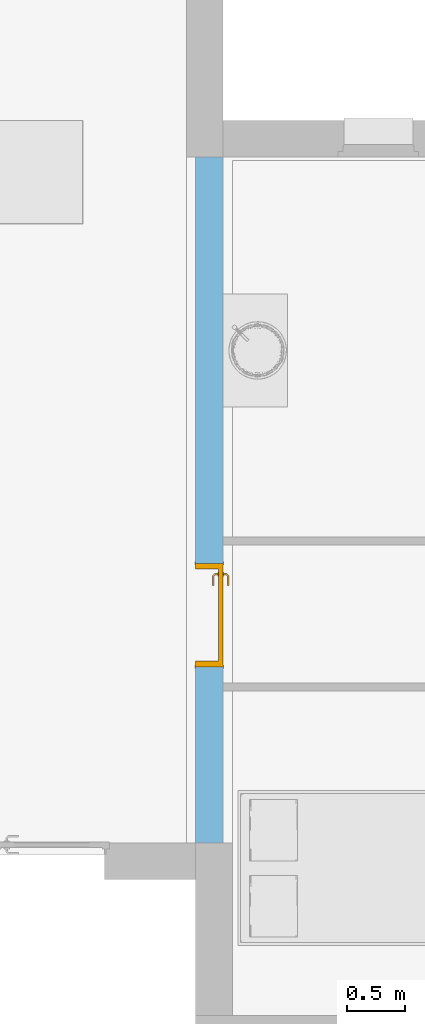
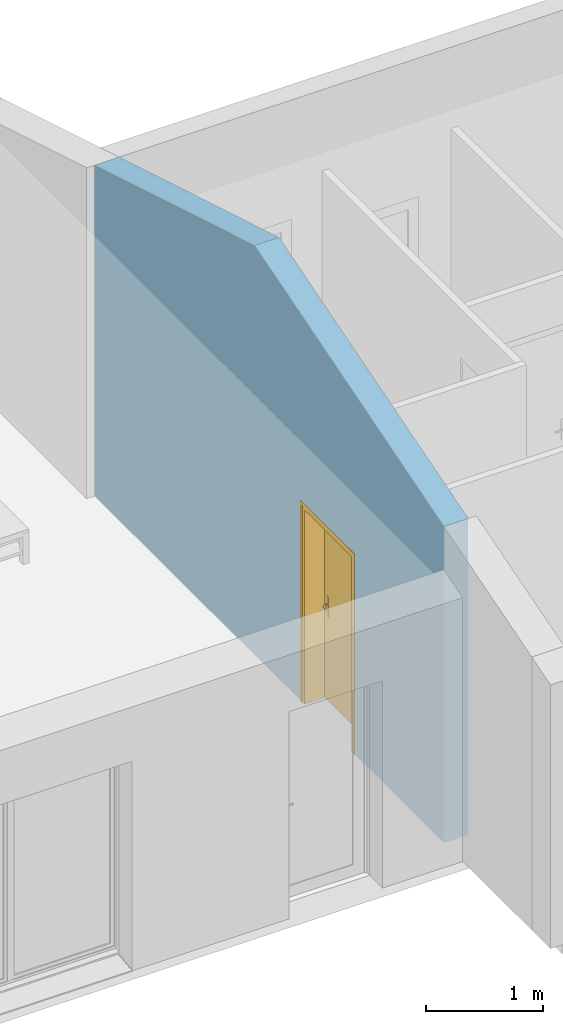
# One storey, part 9 of 18: 1 door, 1 opening, plus 1 element that does not belong to this part.
"""IFC2X3 building model written with IfcOpenShell, lengths in metres."""

from ifc_helpers import new_model, entity, si_unit, converted_unit, derived_unit, direction, frame, frame_2d, origin, place, context, subcontext, project, spatial, polyline, rectangle, extrude, clip, bounded_halfspace, faceted_brep, source, transform, mapped, material, material_list, layer, layer_set, layer_usage, type_object, type_shapes, element, fill, save


model = new_model("IFC2X3")

# Units and contexts
model_context = context("Model", 3, precision=1e-05, world=origin(), true_north=direction((6.12303176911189e-17, 1.0)))
body_context = subcontext(model_context, "Body", "Model", "MODEL_VIEW")
ifc_project = project(units=[si_unit("LENGTHUNIT", "METRE"), si_unit("AREAUNIT", "SQUARE_METRE"), si_unit("VOLUMEUNIT", "CUBIC_METRE"), converted_unit("PLANEANGLEUNIT", "DEGREE", entity("IfcRatioMeasure", 0.0174532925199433), si_unit("PLANEANGLEUNIT", "RADIAN"), dimensions=[0, 0, 0, 0, 0, 0, 0]), si_unit("MASSUNIT", "GRAM", prefix="KILO"), derived_unit("MASSDENSITYUNIT", [(si_unit("MASSUNIT", "GRAM", prefix="KILO"), 1), (si_unit("LENGTHUNIT", "METRE"), -3)]), derived_unit("MOMENTOFINERTIAUNIT", [(si_unit("LENGTHUNIT", "METRE"), 4)]), si_unit("TIMEUNIT", "SECOND"), si_unit("FREQUENCYUNIT", "HERTZ"), si_unit("THERMODYNAMICTEMPERATUREUNIT", "DEGREE_CELSIUS"), derived_unit("THERMALTRANSMITTANCEUNIT", [(si_unit("MASSUNIT", "GRAM", prefix="KILO"), 1), (si_unit("THERMODYNAMICTEMPERATUREUNIT", "KELVIN"), -1), (si_unit("TIMEUNIT", "SECOND"), -3)]), derived_unit("VOLUMETRICFLOWRATEUNIT", [(si_unit("LENGTHUNIT", "METRE"), 3), (si_unit("TIMEUNIT", "SECOND"), -1)]), si_unit("ELECTRICCURRENTUNIT", "AMPERE"), si_unit("ELECTRICVOLTAGEUNIT", "VOLT"), si_unit("POWERUNIT", "WATT"), si_unit("FORCEUNIT", "NEWTON", prefix="KILO"), si_unit("ILLUMINANCEUNIT", "LUX"), si_unit("LUMINOUSFLUXUNIT", "LUMEN"), si_unit("LUMINOUSINTENSITYUNIT", "CANDELA"), derived_unit("USERDEFINED", [(si_unit("MASSUNIT", "GRAM", prefix="KILO"), -1), (si_unit("LENGTHUNIT", "METRE"), -2), (si_unit("TIMEUNIT", "SECOND"), 3), (si_unit("LUMINOUSFLUXUNIT", "LUMEN"), 1)]), derived_unit("LINEARVELOCITYUNIT", [(si_unit("LENGTHUNIT", "METRE"), 1), (si_unit("TIMEUNIT", "SECOND"), -1)]), si_unit("PRESSUREUNIT", "PASCAL"), derived_unit("USERDEFINED", [(si_unit("LENGTHUNIT", "METRE"), -2), (si_unit("MASSUNIT", "GRAM", prefix="KILO"), 1), (si_unit("TIMEUNIT", "SECOND"), -2)]), derived_unit("LINEARFORCEUNIT", [(si_unit("MASSUNIT", "GRAM", prefix="KILO"), 1), (si_unit("LENGTHUNIT", "METRE"), 1), (si_unit("TIMEUNIT", "SECOND"), -2), (si_unit("LENGTHUNIT", "METRE"), -1)]), derived_unit("PLANARFORCEUNIT", [(si_unit("MASSUNIT", "GRAM", prefix="KILO"), 1), (si_unit("LENGTHUNIT", "METRE"), 1), (si_unit("TIMEUNIT", "SECOND"), -2), (si_unit("LENGTHUNIT", "METRE"), -2)])], contexts=[model_context])

# Site, building, storey
site_placement = place(None, origin())
site = spatial("IfcSite", under=ifc_project, at=site_placement, Name="Surface", CompositionType="ELEMENT")
building_placement = place(site_placement, origin())
building = spatial("IfcBuilding", under=site, at=building_placement, CompositionType="ELEMENT")
storey_placement = place(building_placement, origin())
storey = spatial("IfcBuildingStorey", under=building, at=storey_placement, Name="RDC", CompositionType="ELEMENT", Elevation=-1.94916083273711e-14)

# Wall, opening, door
ifc_material_1 = material(Name="Maçonnerie - Enduit")
ifc_layer_1 = layer(ifc_material_1, 0.02)
ifc_material_2 = material(Name="Blocs béton manufacturés")
ifc_layer_2 = layer(ifc_material_2, 0.2)
ifc_layer_3 = layer(ifc_material_1, 0.02)
ifc_layer_set = layer_set([ifc_layer_1, ifc_layer_2, ifc_layer_3], Name="Mur de base:parpaing 20 + enduit 2 faces 2 cm")
ifc_layer_usage = layer_usage(ifc_layer_set, "AXIS2", "NEGATIVE", 0.12)
wall_type = type_object("IfcWallType", Name="Mur de base:parpaing 20 + enduit 2 faces 2 cm", PredefinedType="STANDARD", material=ifc_layer_set)
wall_placement = place(storey_placement, frame((-11.2282926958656, 6.66737977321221, 0.0), z_axis=(0.0, 0.0, 1.0), x_axis=(0.0, -1.0, 0.0)))
wall = element("IfcWallStandardCase", 1, at=wall_placement, inside=storey, type_object=wall_type, material=ifc_layer_usage, Name="Mur de base:parpaing 20 + enduit 2 faces 2 cm", ObjectType="Mur de base:parpaing 20 + enduit 2 faces 2 cm", context=body_context, shape_type="Clipping", body=[
    clip(clip(extrude(rectangle(XDim=5.95999999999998, YDim=0.240000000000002, at=frame_2d((2.97999999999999, -1.38777878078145e-16), x_axis=(-1.0, 0.0))), origin(), (0.0, 0.0, 1.0), 4.26500000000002), bounded_halfspace(frame((0.0, 0.12, 3.44600000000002), z_axis=(-0.287347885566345, 0.0, 0.957826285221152), x_axis=(0.0, -1.0, 0.0)), False, frame((0.0, 0.12, 3.44600000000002)), polyline([(0.0, 0.0), (0.0, -0.24), (1.97999999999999, -0.24), (2.32801021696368, -0.24), (2.72999999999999, -0.239999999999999), (2.72999999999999, 0.0), (0.0, 0.0)]))), bounded_halfspace(frame((5.95999999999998, -0.120000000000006, 3.29600000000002), z_axis=(0.287347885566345, 0.0, 0.957826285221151), x_axis=(0.0, 1.0, 0.0)), False, frame((5.95999999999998, -0.120000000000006, 3.29600000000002)), polyline([(0.0, 0.0), (0.0, 0.240000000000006), (-3.22999999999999, 0.240000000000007), (-3.22999999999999, 0.0), (0.0, 0.0)]))),
])
opening_placement = place(wall_placement, frame((3.52999999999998, -0.12, 0.0)))
opening = element("IfcOpeningElement", 2, at=opening_placement, cuts=wall, Name="Int. Simple:PP (0.83m x 2.04m):1", ObjectType="Opening", context=body_context, shape_type="SweptSolid", body=[
    extrude(rectangle(XDim=2.075, YDim=0.9, at=frame_2d((1.0375, 0.45), x_axis=(1.0, 0.0))), frame((0.0, 0.0, 0.0), z_axis=(0.0, 1.0, 0.0), x_axis=(0.0, 0.0, 1.0)), (0.0, 0.0, 1.0), 0.24),
])
ifc_material_3 = material(Name="Finition Peinture - Blanc satiné")
ifc_material_4 = material(Name="Bois - Panneau de porte")
ifc_material_5 = material(Name="Bois - Cadre de porte")
ifc_material_list_1 = material_list([ifc_material_3, ifc_material_4, ifc_material_5])
ifc_material_list_2 = material_list([ifc_material_5, ifc_material_3, ifc_material_5, ifc_material_4])
door_style = type_object("IfcDoorStyle", Name="Int. Simple:PP (0.83m x 2.04m)", ConstructionType="NOTDEFINED", OperationType="NOTDEFINED", ParameterTakesPrecedence=False, Sizeable=False, material=ifc_material_list_2)
shared_shape = source(origin(), body_context, "Body", "Brep", [
    faceted_brep([(0.895000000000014, -0.00500000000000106, 0.870000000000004), (0.895000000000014, -0.00500000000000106, 1.08), (0.885352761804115, -0.00500000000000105, 1.08399601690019), (0.875000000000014, -0.00500000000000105, 1.08535898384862), (0.864647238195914, -0.00500000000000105, 1.08399601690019), (0.855000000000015, -0.00500000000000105, 1.08), (0.855000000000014, -0.00500000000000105, 0.870000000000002), (0.864647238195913, -0.00500000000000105, 0.866003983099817), (0.875000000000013, -0.00500000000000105, 0.86464101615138), (0.885352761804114, -0.00500000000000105, 0.866003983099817), (0.895000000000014, 0.0, 1.08), (0.895000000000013, 0.0, 0.870000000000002), (0.885352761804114, 0.0, 0.866003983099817), (0.875000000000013, 0.0, 0.86464101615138), (0.864647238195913, 0.0, 0.866003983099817), (0.855000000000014, 0.0, 0.870000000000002), (0.855000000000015, 0.0, 1.08), (0.864647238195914, 0.0, 1.08399601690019), (0.875000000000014, 0.0, 1.08535898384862), (0.885352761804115, 0.0, 1.08399601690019)], [[[0, 1, 2, 3, 4, 5, 6, 7, 8, 9]], [[10, 11, 12, 13, 14, 15, 16, 17, 18, 19]], [[9, 12, 11, 0]], [[8, 13, 12, 9]], [[7, 14, 13, 8]], [[7, 6, 15, 14]], [[15, 6, 5, 16]], [[4, 17, 16, 5]], [[3, 18, 17, 4]], [[2, 19, 18, 3]], [[2, 1, 10, 19]], [[11, 10, 1, 0]]]),
    faceted_brep([(0.895000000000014, 0.0399999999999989, 0.870000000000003), (0.895000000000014, 0.0399999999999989, 1.08), (0.885352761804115, 0.0399999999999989, 1.08399601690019), (0.875000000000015, 0.0399999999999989, 1.08535898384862), (0.864647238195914, 0.0399999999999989, 1.08399601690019), (0.855000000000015, 0.0399999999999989, 1.08), (0.855000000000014, 0.0399999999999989, 0.870000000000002), (0.864647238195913, 0.0399999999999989, 0.866003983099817), (0.875000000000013, 0.0399999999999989, 0.86464101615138), (0.885352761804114, 0.0399999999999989, 0.866003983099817), (0.875000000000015, 0.0449999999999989, 1.08535898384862), (0.885352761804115, 0.0449999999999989, 1.08399601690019), (0.895000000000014, 0.0449999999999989, 1.08), (0.895000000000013, 0.0449999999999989, 0.870000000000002), (0.885352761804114, 0.0449999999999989, 0.866003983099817), (0.875000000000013, 0.0449999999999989, 0.86464101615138), (0.864647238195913, 0.0449999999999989, 0.866003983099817), (0.855000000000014, 0.0449999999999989, 0.870000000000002), (0.855000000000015, 0.0449999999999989, 1.08), (0.864647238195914, 0.0449999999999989, 1.08399601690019)], [[[0, 1, 2, 3, 4, 5, 6, 7, 8, 9]], [[10, 11, 12, 13, 14, 15, 16, 17, 18, 19]], [[4, 19, 18, 5]], [[3, 10, 19, 4]], [[2, 11, 10, 3]], [[2, 1, 12, 11]], [[13, 12, 1, 0]], [[9, 14, 13, 0]], [[8, 15, 14, 9]], [[7, 16, 15, 8]], [[7, 6, 17, 16]], [[17, 6, 5, 18]]]),
    faceted_brep([(0.872974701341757, -0.00500000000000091, 1.00778044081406), (0.877025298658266, -0.00500000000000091, 1.00778044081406), (0.881000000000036, -0.00500000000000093, 1.00699999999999), (0.881000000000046, -0.00500000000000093, 0.992999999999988), (0.877025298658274, -0.00500000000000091, 0.99221955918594), (0.872974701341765, -0.00500000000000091, 0.992219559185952), (0.868999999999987, -0.00500000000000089, 0.993000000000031), (0.868999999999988, -0.00500000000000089, 1.007), (0.877025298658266, -0.0310045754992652, 1.00778044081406), (0.881000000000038, -0.0326509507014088, 1.007), (0.872974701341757, -0.0293267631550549, 1.00778044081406), (0.859298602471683, -0.0430028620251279, 1.00778044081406), (0.860976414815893, -0.0470534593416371, 1.00778044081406), (0.868999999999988, -0.0276803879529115, 1.007), (0.868999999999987, -0.0276803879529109, 0.993000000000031), (0.872974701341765, -0.0293267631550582, 0.992219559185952), (0.877025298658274, -0.0310045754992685, 0.99221955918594), (0.860976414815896, -0.047053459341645, 0.99221955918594), (0.859298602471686, -0.0430028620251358, 0.992219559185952), (0.881000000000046, -0.0326509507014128, 0.992999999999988), (0.862622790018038, -0.051028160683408, 1.007), (0.85765222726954, -0.0390281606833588, 1.007), (0.857652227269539, -0.0390281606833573, 0.993000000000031), (0.862622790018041, -0.0510281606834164, 0.992999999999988), (0.774981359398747, -0.0510281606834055, 1.007), (0.774981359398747, -0.0470534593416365, 1.00778044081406), (0.774981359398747, -0.0430028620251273, 1.00778044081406), (0.774981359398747, -0.0390281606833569, 1.00699999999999), (0.774981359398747, -0.0390281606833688, 0.993000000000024), (0.774981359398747, -0.0430028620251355, 0.992219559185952), (0.774981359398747, -0.0470534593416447, 0.99221955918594), (0.774981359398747, -0.0510281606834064, 0.992999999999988), (0.81713998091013, -0.045028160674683, 1.0078786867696), (0.822692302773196, -0.051028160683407, 1.007), (0.816316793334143, -0.039028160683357, 1.007), (0.816316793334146, -0.0390281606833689, 0.993000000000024), (0.817139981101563, -0.0450281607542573, 0.992121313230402), (0.822692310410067, -0.0510281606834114, 0.992999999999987)], [[[0, 1, 2, 3, 4, 5, 6, 7]], [[2, 1, 8, 9]], [[1, 0, 10, 11, 12, 8]], [[0, 7, 13, 10]], [[14, 13, 7, 6]], [[5, 15, 14, 6]], [[5, 4, 16, 17, 18, 15]], [[3, 19, 16, 4]], [[9, 19, 3, 2]], [[9, 8, 12, 20]], [[10, 13, 21, 11]], [[22, 21, 13, 14]], [[14, 15, 18, 22]], [[16, 19, 23, 17]], [[20, 23, 19, 9]], [[24, 25, 26, 27, 28, 29, 30, 31]], [[32, 25, 33]], [[33, 25, 24]], [[33, 20, 12]], [[11, 34, 32]], [[34, 11, 21]], [[27, 26, 34]], [[32, 26, 25]], [[32, 34, 26]], [[32, 33, 12]], [[11, 32, 12]], [[21, 22, 35, 28, 27, 34]], [[36, 29, 35]], [[30, 36, 37]], [[18, 35, 22]], [[29, 28, 35]], [[30, 37, 31]], [[37, 17, 23]], [[36, 17, 37]], [[36, 18, 17]], [[36, 35, 18]], [[29, 36, 30]], [[23, 20, 33, 24, 31, 37]]]),
    faceted_brep([(0.872974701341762, 0.0449999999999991, 0.992219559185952), (0.877025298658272, 0.0449999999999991, 0.99221955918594), (0.881000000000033, 0.044999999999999, 0.992999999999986), (0.881000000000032, 0.044999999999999, 1.007), (0.877025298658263, 0.0449999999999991, 1.00778044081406), (0.872974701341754, 0.0449999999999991, 1.00778044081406), (0.868999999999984, 0.0449999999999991, 1.007), (0.868999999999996, 0.0449999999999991, 0.993000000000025), (0.868999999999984, 0.067485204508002, 1.007), (0.868999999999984, 0.0674852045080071, 0.993000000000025), (0.872974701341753, 0.0691315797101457, 1.00778044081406), (0.877025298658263, 0.070809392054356, 1.00778044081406), (0.860838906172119, 0.0869957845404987, 1.00778044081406), (0.859161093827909, 0.0829451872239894, 1.00778044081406), (0.881000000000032, 0.0724557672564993, 1.007), (0.881000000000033, 0.0724557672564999, 0.992999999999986), (0.877025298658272, 0.0708093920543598, 0.99221955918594), (0.872974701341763, 0.0691315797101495, 0.992219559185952), (0.859161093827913, 0.0829451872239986, 0.992219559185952), (0.860838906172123, 0.0869957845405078, 0.99221955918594), (0.857514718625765, 0.0789704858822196, 1.007), (0.857514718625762, 0.0789704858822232, 0.993000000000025), (0.862485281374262, 0.0909704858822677, 1.007), (0.862485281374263, 0.0909704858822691, 0.992999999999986), (0.77495421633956, 0.0829451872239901, 1.00778044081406), (0.77495421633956, 0.0869957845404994, 1.00778044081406), (0.77495421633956, 0.0909704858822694, 1.007), (0.77495421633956, 0.0909704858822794, 0.992999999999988), (0.77495421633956, 0.086995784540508, 0.99221955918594), (0.77495421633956, 0.0829451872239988, 0.992219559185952), (0.77495421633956, 0.0789704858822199, 0.993000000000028), (0.77495421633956, 0.0789704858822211, 1.007), (0.816234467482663, 0.0789704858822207, 1.007), (0.816234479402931, 0.0789704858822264, 0.993000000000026), (0.817057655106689, 0.0849704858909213, 1.0078786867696), (0.822554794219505, 0.0909704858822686, 1.007), (0.822554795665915, 0.0909704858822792, 0.992999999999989), (0.817057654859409, 0.0849704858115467, 0.992121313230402)], [[[0, 1, 2, 3, 4, 5, 6, 7]], [[8, 9, 7, 6]], [[5, 10, 8, 6]], [[5, 4, 11, 12, 13, 10]], [[3, 14, 11, 4]], [[14, 3, 2, 15]], [[2, 1, 16, 15]], [[1, 0, 17, 18, 19, 16]], [[0, 7, 9, 17]], [[20, 21, 9, 8]], [[8, 10, 13, 20]], [[14, 22, 12, 11]], [[23, 22, 14, 15]], [[15, 16, 19, 23]], [[17, 9, 21, 18]], [[24, 25, 26, 27, 28, 29, 30, 31]], [[21, 20, 32, 31, 30, 33]], [[34, 24, 32]], [[25, 34, 35]], [[13, 32, 20]], [[24, 31, 32]], [[25, 35, 26]], [[35, 12, 22]], [[34, 12, 35]], [[34, 13, 12]], [[34, 32, 13]], [[24, 34, 25]], [[22, 23, 36, 27, 26, 35]], [[37, 28, 36]], [[36, 28, 27]], [[36, 23, 19]], [[18, 33, 37]], [[33, 18, 21]], [[30, 29, 33]], [[37, 29, 28]], [[37, 33, 29]], [[37, 36, 19]], [[18, 37, 19]]]),
    faceted_brep([(0.935000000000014, 0.04, 2.04), (0.935000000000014, 0.04, 0.0), (0.105000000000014, 0.04, 0.0), (0.105000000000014, 0.04, 2.04), (0.935000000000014, 0.0, 2.04), (0.105000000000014, 0.0, 2.04), (0.105000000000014, 0.0, 0.0), (0.935000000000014, 0.0, 0.0)], [[[0, 1, 2, 3]], [[4, 5, 6, 7]], [[3, 5, 4, 0]], [[2, 6, 5, 3]], [[1, 7, 6, 2]], [[0, 4, 7, 1]]]),
    faceted_brep([(0.970000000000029, 0.0, 0.0), (0.935000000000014, 0.0, 0.0), (0.935000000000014, 0.040000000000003, 0.0), (0.920000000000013, 0.040000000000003, 0.0), (0.920000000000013, 0.240000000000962, 0.0), (0.970000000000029, 0.240000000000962, 0.0), (0.970000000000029, 0.240000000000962, 2.07500000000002), (0.970000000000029, 0.0, 2.07500000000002), (0.920000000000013, 0.240000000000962, 2.025), (0.120000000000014, 0.240000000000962, 2.025), (0.120000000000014, 0.240000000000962, 0.0), (0.0699999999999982, 0.240000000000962, 0.0), (0.0699999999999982, 0.240000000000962, 2.07500000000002), (0.920000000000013, 0.040000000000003, 2.025), (0.935000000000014, 0.040000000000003, 2.04), (0.105000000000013, 0.040000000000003, 2.04), (0.105000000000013, 0.040000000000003, 0.0), (0.120000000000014, 0.040000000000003, 0.0), (0.120000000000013, 0.040000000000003, 2.025), (0.935000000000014, 0.0, 2.04), (0.0699999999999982, 0.0, 2.07500000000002), (0.0699999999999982, 0.0, 0.0), (0.105000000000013, 0.0, 0.0), (0.105000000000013, 0.0, 2.04)], [[[0, 1, 2, 3, 4, 5]], [[5, 6, 7, 0]], [[4, 8, 9, 10, 11, 12, 6, 5]], [[3, 13, 8, 4]], [[2, 14, 15, 16, 17, 18, 13, 3]], [[1, 19, 14, 2]], [[0, 7, 20, 21, 22, 23, 19, 1]], [[12, 11, 21, 20]], [[21, 11, 10, 17, 16, 22]], [[18, 17, 10, 9]], [[23, 22, 16, 15]], [[6, 12, 20, 7]], [[13, 18, 9, 8]], [[19, 23, 15, 14]]]),
    faceted_brep([(0.955000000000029, 0.240000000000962, 0.0), (0.955000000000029, 0.245000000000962, 0.0), (0.985000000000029, 0.245000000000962, 0.0), (0.985000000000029, 0.240000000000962, 0.0), (0.985000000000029, 0.240000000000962, 2.09000000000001), (0.0550000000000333, 0.240000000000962, 2.09000000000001), (0.0550000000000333, 0.240000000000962, 0.0), (0.0850000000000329, 0.240000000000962, 0.0), (0.0850000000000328, 0.240000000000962, 2.06000000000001), (0.955000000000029, 0.240000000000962, 2.06000000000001), (0.985000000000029, 0.245000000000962, 2.09000000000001), (0.955000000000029, 0.245000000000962, 2.06000000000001), (0.0850000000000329, 0.245000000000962, 2.06000000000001), (0.0850000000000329, 0.245000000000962, 0.0), (0.055000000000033, 0.245000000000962, 0.0), (0.0550000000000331, 0.245000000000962, 2.09000000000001)], [[[0, 1, 2, 3]], [[3, 4, 5, 6, 7, 8, 9, 0]], [[2, 10, 4, 3]], [[1, 11, 12, 13, 14, 15, 10, 2]], [[0, 9, 11, 1]], [[7, 6, 14, 13]], [[8, 7, 13, 12]], [[15, 14, 6, 5]], [[10, 15, 5, 4]], [[9, 8, 12, 11]]]),
    faceted_brep([(0.985000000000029, -0.00500000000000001, 0.0), (0.985000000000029, -0.00500000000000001, 2.09000000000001), (0.0550000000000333, -0.00500000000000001, 2.09000000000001), (0.0550000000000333, -0.00500000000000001, 0.0), (0.0850000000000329, -0.00500000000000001, 0.0), (0.0850000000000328, -0.00500000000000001, 2.06000000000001), (0.955000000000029, -0.00500000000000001, 2.06000000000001), (0.955000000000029, -0.00500000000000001, 0.0), (0.985000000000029, 0.0, 0.0), (0.985000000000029, 0.0, 2.09000000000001), (0.955000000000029, 0.0, 0.0), (0.955000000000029, 0.0, 2.06000000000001), (0.0850000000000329, 0.0, 2.06000000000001), (0.0850000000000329, 0.0, 0.0), (0.055000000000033, 0.0, 0.0), (0.0550000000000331, 0.0, 2.09000000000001)], [[[0, 1, 2, 3, 4, 5, 6, 7]], [[8, 9, 1, 0]], [[10, 11, 12, 13, 14, 15, 9, 8]], [[7, 6, 11, 10]], [[5, 4, 13, 12]], [[15, 14, 3, 2]], [[9, 15, 2, 1]], [[6, 5, 12, 11]], [[4, 3, 14, 13]], [[7, 10, 8, 0]]]),
])
type_shapes(door_style, [shared_shape])
door_placement = place(opening_placement, frame((0.970000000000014, 0.239999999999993, 0.0), z_axis=(0.0, 0.0, 1.0), x_axis=(-1.0, 0.0, 0.0)))
door = element("IfcDoor", 3, at=door_placement, inside=storey, type_object=door_style, material=ifc_material_list_1, Name="Int. Simple:PP (0.83m x 2.04m)", ObjectType="Int. Simple:PP (0.83m x 2.04m)", OverallHeight=2.075, OverallWidth=0.9, context=body_context, shape_type="MappedRepresentation", body=[
    mapped(shared_shape, transform((0.0, 0.0, 0.0), scale=1.0)),
])
fill(opening, door)

save(model, "model.ifc")
